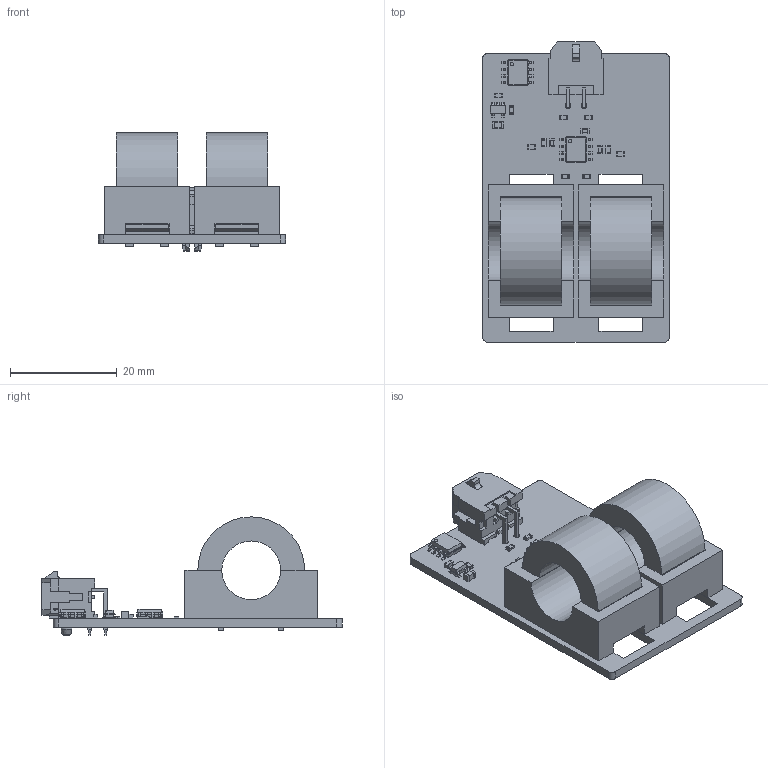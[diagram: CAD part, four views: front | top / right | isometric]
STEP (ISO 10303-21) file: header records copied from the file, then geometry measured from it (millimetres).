
FILE_DESCRIPTION(('KiCad electronic assembly'),'2;1');
FILE_NAME('MDC_DI_10S_A_XXX.step','2021-07-02T15:18:51',('An Author'),( 'A Company'),'Open CASCADE STEP processor 6.9', 'KiCad to STEP converter','Unknown');
FILE_SCHEMA(('AUTOMOTIVE_DESIGN { 1 0 10303 214 1 1 1 1 }'));
Length unit declared in the file: millimetre
Products named in the file (16): Open CASCADE STEP translator 6.9 1; SOT-23-5; SOLID; SOIC-8_3.9x4.9mm_P1.27mm; R_0603_1608Metric; C_0603_1608Metric; Molex_0430450400; C_0805_2012Metric; CO-10-TF; COMPOUND
Assembly tree (40 placements, depth 3):
  Open CASCADE STEP translator 6.9 1
    SOT-23-5
      SOLID
    SOIC-8_3.9x4.9mm_P1.27mm  x4
      SOLID
    R_0603_1608Metric  x11
      SOLID
    C_0603_1608Metric  x12
      SOLID
    Molex_0430450400
      SOLID
    C_0805_2012Metric
      SOLID
    CO-10-TF  x2
      COMPOUND
    COMPOUND
Bounding box: 35 x 56.16 x 22.12 mm (x, y, z)
Volume: 10453.2 mm3; surface area: 15910.8 mm2
Topology: 41 solids, 41 shells, 2093 faces, 5497 edges, 3513 vertices
Faces by surface type: plane 1436, cylinder 496, bspline 157, cone 2, torus 2
Full cylindrical faces by diameter (mm): 0.6 x4, 1 x8, 1.07 x4, 3.05 x1
Entity records: 60156 total; most frequent: CARTESIAN_POINT 11123, DIRECTION 8549, LINE 6037, VECTOR 6037, ORIENTED_EDGE 4600, PCURVE 4600, DEFINITIONAL_REPRESENTATION 4600, EDGE_CURVE 2300
